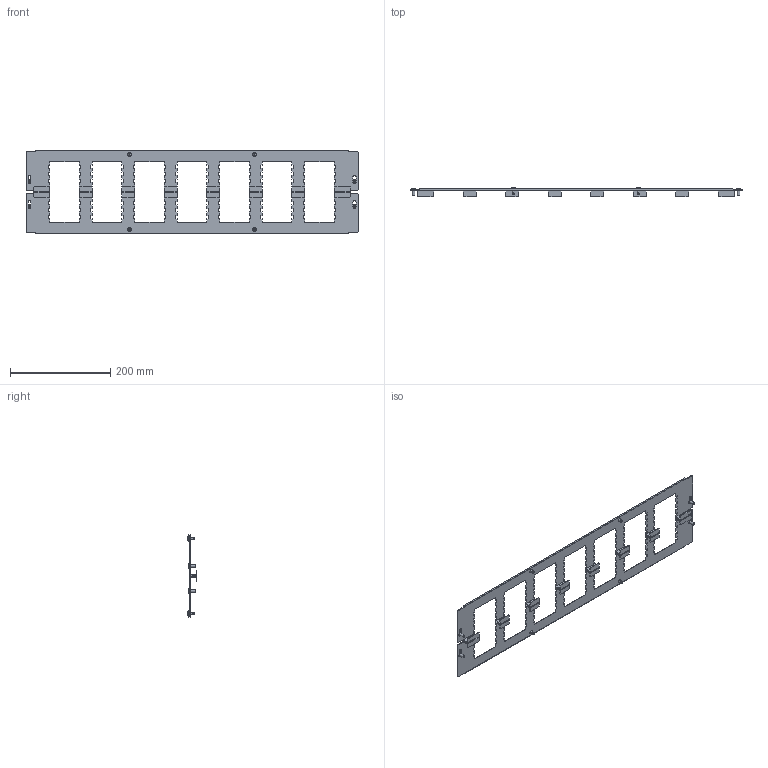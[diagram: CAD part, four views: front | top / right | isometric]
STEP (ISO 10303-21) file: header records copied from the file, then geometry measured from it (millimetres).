
FILE_DESCRIPTION(('Open CASCADE Model'),'2;1');
FILE_NAME('Open CASCADE Shape Model','2025-02-21T14:48:44',('Author'),( 'Open CASCADE'),'Open CASCADE STEP processor 7.8','Open CASCADE 7.8' ,'Unknown');
FILE_SCHEMA(('AUTOMOTIVE_DESIGN { 1 0 10303 214 1 1 1 1 }'));
Length unit declared in the file: millimetre
Products named in the file (4): Compound1; Solid1; Solid2; Solid3
Assembly tree (10 placements, depth 2):
  Compound1
    Solid1  x2
    Solid2  x4
    Solid3  x4
Bounding box: 664 x 19.31 x 165 mm (x, y, z)
Volume: 124320.8 mm3; surface area: 174057.4 mm2
Topology: 10 solids, 10 shells, 928 faces, 2632 edges, 1716 vertices
Faces by surface type: plane 836, cylinder 32, cone 20, sphere 16, torus 16, bspline 8
Full cylindrical faces by diameter (mm): 4.8 x4, 5 x4, 6 x4, 7 x4, 9.5 x8
Entity records: 14644 total; most frequent: CARTESIAN_POINT 3290, ORIENTED_EDGE 2474, DIRECTION 2122, EDGE_CURVE 1237, LINE 1152, VECTOR 1152, VERTEX_POINT 819, AXIS2_PLACEMENT_3D 485
